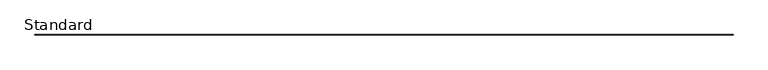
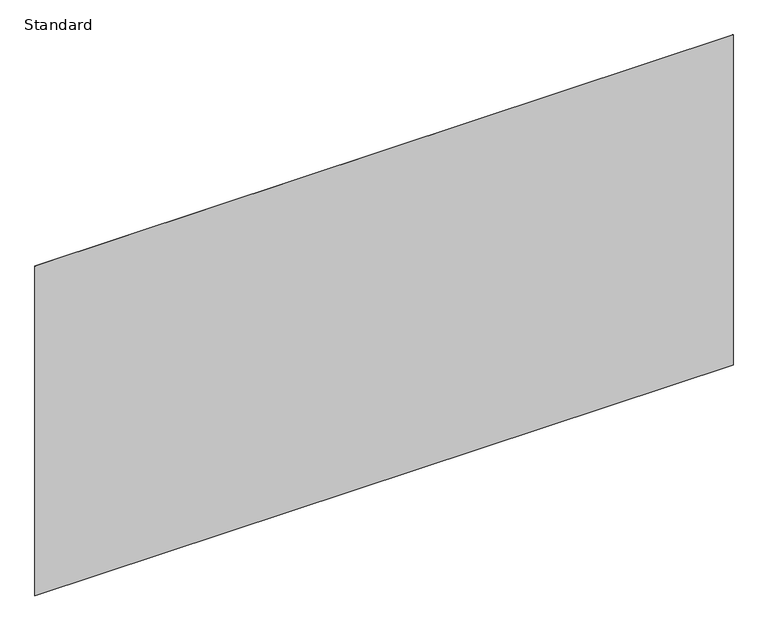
"""IFC4 building model written with IfcOpenShell, lengths in millimetres: proxy geometry, Dafa_ExFoil : Standard."""

from ifc_helpers import new_model, si_unit, origin, origin_with_axes, place, context, project, spatial, polyline, outline, extrude, source, transform, mapped, element, save


def standard_6c1edd98(model_context):
    return source(origin(), model_context, "Body", "SweptSolid", [
        extrude(outline(polyline([(-2500.0, -0.5), (-2500.0, 0.5), (2500.0, 0.5), (2500.0, -0.5), (-2500.0, -0.5)])), origin_with_axes(), (0.0, 0.0, 1.0), 2500.0),
    ])


if __name__ == "__main__":
    model = new_model("IFC4")
    model_context = context("Model", 3, world=origin())
    ifc_project = project(units=[si_unit("LENGTHUNIT", "METRE", prefix="MILLI")], contexts=[model_context])
    site = spatial("IfcSite", under=ifc_project)
    building = spatial("IfcBuilding", under=site)
    placement = place(None, origin())
    standard_shape = standard_6c1edd98(model_context)
    element("IfcBuildingElementProxy", 1, Name="Dafa_ExFoil : Standard", ObjectType="Dafa_ExFoil : Standard", at=placement, inside=building, context=model_context, shape_type="MappedRepresentation", body=[
        mapped(standard_shape, transform((0.0, 0.0, 0.0), x_axis=(1.0, 0.0, 0.0), y_axis=(0.0, 1.0, 0.0), z_axis=(0.0, 0.0, 1.0))),
    ])
    save(model, "model.ifc")
